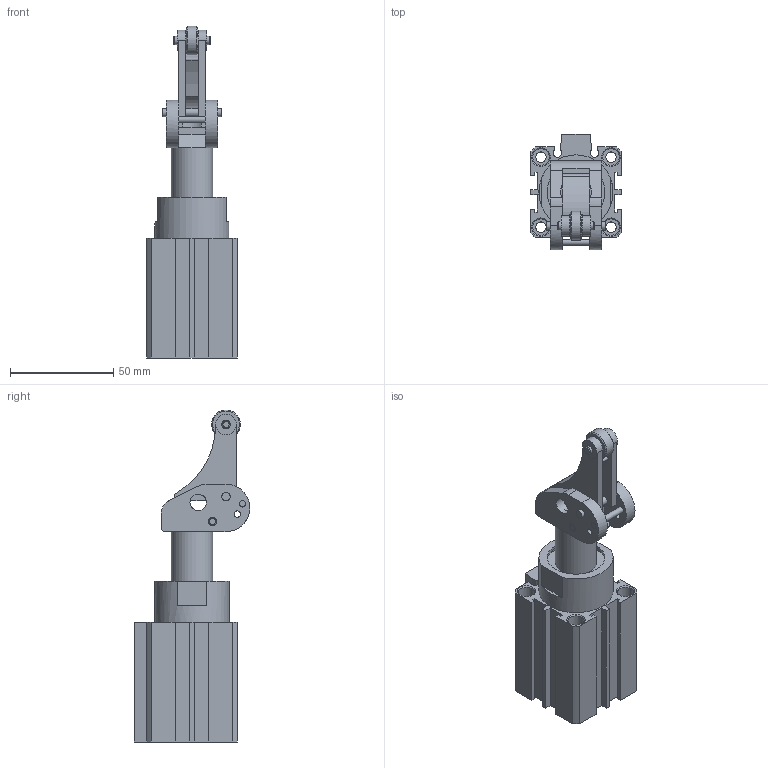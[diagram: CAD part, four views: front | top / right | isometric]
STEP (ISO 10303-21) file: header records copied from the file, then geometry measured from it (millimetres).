
FILE_DESCRIPTION((''),'2;1');
FILE_NAME('I:\3D電子目錄\氣缸\STD\STD\STD32\STD32x10.stp','2007-09-26T08:55:33',('Administrator'),(''),'Autodesk Inventor 11','Autodesk Inventor 11','');
FILE_SCHEMA(('AUTOMOTIVE_DESIGN { 1 0 10303 214 1 1 1 1 }'));
Length unit declared in the file: millimetre
Products named in the file (1): STD32
Bounding box: 44 x 56 x 161 mm (x, y, z)
Volume: 140729.1 mm3; surface area: 38478.5 mm2
Topology: 5 solids, 5 shells, 200 faces, 507 edges, 329 vertices
Faces by surface type: plane 113, cylinder 55, cone 18, bspline 13, torus 1
Full cylindrical faces by diameter (mm): 2.2 x2, 3 x1, 3.1 x4, 4 x6, 4.1 x1, 5.1 x4, 8 x10, 10 x2, 14 x1, 20 x1, 23 x1, 28 x1, 29.4 x1, 34 x2, 36 x2
Entity records: 5974 total; most frequent: CARTESIAN_POINT 1294, DIRECTION 969, ORIENTED_EDGE 864, EDGE_CURVE 432, AXIS2_PLACEMENT_3D 354, VERTEX_POINT 318, EDGE_LOOP 311, VECTOR 261
